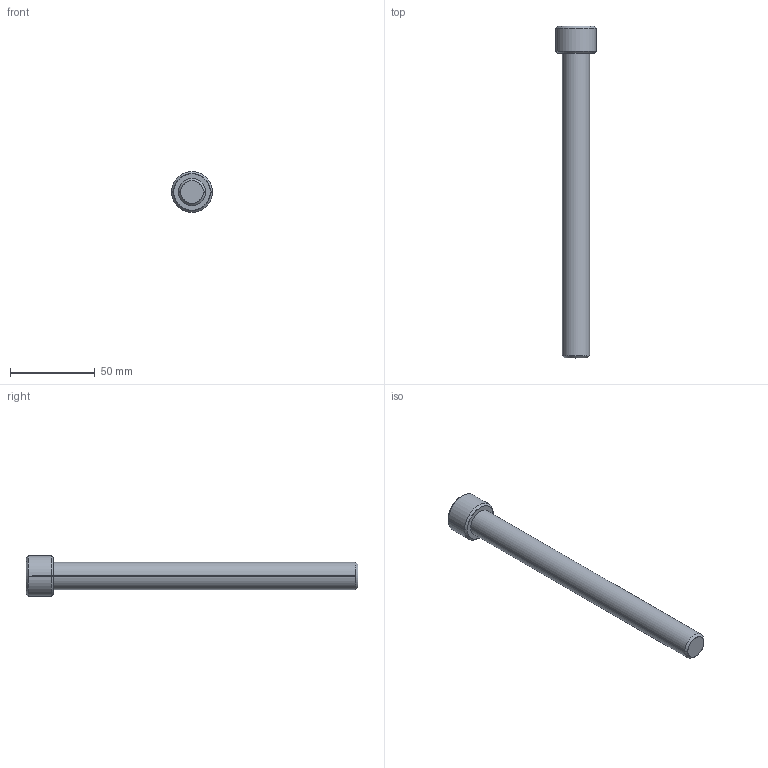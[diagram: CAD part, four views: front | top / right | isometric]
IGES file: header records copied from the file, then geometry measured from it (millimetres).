
Start section: SolidWorks IGES file using analytic representation for surfaces
Global section: file name: D:\Cleonir_arquivos\MT_15_07\Parafuso Allen Cabeça Cilindrica\CLM16180.igs; native system: SolidWorks 2013; preprocessor: SolidWorks 2013; author: Cleonir; date: 130730.130234; units: millimetre
Bounding box: 24 x 196 x 24 mm (x, y, z)
Surface area: 11573.9 mm2 (no closed solid volume)
Topology: 0 solids, 0 shells, 282 faces, 2457 edges, 2457 vertices
Faces by surface type: bspline 264, revolution 18
